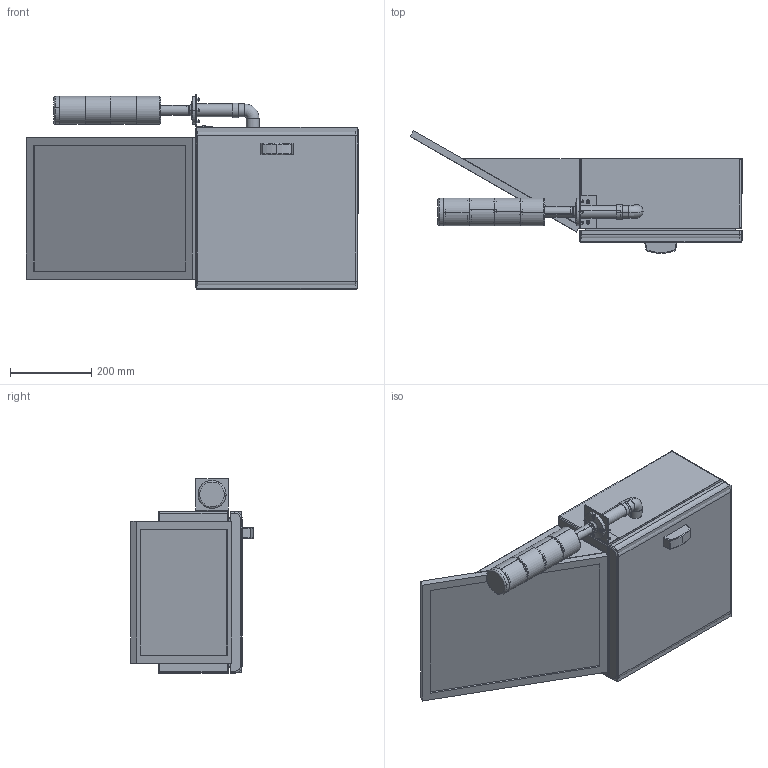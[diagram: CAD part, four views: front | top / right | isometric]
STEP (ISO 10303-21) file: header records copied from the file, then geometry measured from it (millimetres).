
FILE_DESCRIPTION (( 'STEP AP203' ), '1' );
FILE_NAME ('Assemblage TP eleve.STEP', '2025-09-04T13:47:49', ( '' ), ( '' ), 'SwSTEP 2.0', 'SolidWorks 2024', '' );
FILE_SCHEMA (( 'CONFIG_CONTROL_DESIGN' ));
Length unit declared in the file: millimetre
Products named in the file (26): tube pvc D32; equerre plastique; porte boitier; equerre panneau G; led rouge; base; boitier; coude pvc; vis CB M5-10; vis CHC M5-12_ISO 4762 M5 x 12 - 12N; assem boitier; socle; led verte; embout; equerre panneau D1; Boitier+panneau; ecrou M5_ISO - 4034 - M5 - C; Assem panneau solaire; pied; panneau solaire; colonne 3 leds; led blanche; joint porte; Assemblage TP eleve; poignee; vis CB M5-10_ISO 7380 - M5 x 10 - 10N
Assembly tree (47 placements, depth 4):
  Assemblage TP eleve
    Boitier+panneau
      Assem panneau solaire
        panneau solaire
        equerre panneau G
        vis CB M5-10_ISO 7380 - M5 x 10 - 10N  x6
        equerre panneau D1
      assem boitier
        boitier
        porte boitier
        joint porte
        poignee
      vis CB M5-10  x6
      ecrou M5_ISO - 4034 - M5 - C  x10
      equerre plastique
      colonne 3 leds
        base
        led blanche
        led verte
        led rouge
        embout
        pied
        socle
      vis CHC M5-12_ISO 4762 M5 x 12 - 12N  x4
      tube pvc D32
      coude pvc
Bounding box: 818.95 x 302.98 x 480 mm (x, y, z)
Volume: 3257424.1 mm3; surface area: 2113226.2 mm2
Topology: 45 solids, 45 shells, 1087 faces, 2399 edges, 1424 vertices
Faces by surface type: plane 481, cylinder 288, cone 228, torus 62, sphere 28
Entity records: 17427 total; most frequent: CARTESIAN_POINT 2692, DIRECTION 2605, ORIENTED_EDGE 2158, EDGE_CURVE 1079, AXIS2_PLACEMENT_3D 1024, VERTEX_POINT 669, EDGE_LOOP 596, VECTOR 557
